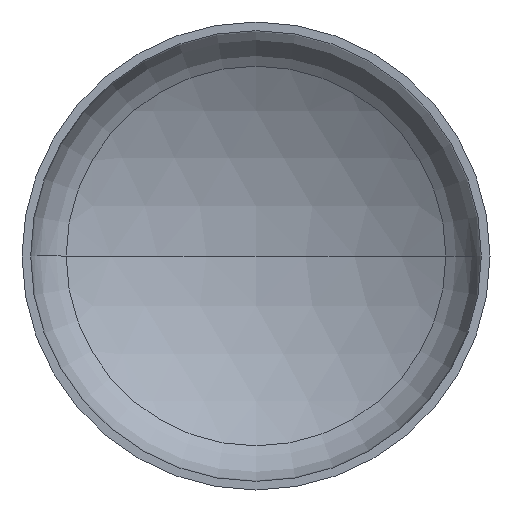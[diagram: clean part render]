
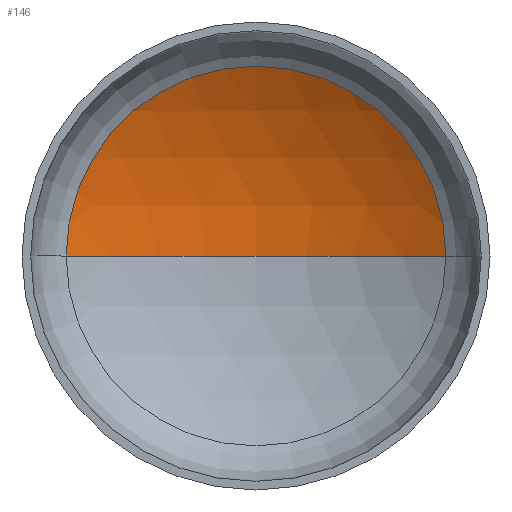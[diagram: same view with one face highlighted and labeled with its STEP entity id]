
A CAD part, front view. The second image highlights one B-rep face of the part: STEP entity #146.
In plain terms, the highlighted spherical face has radius 3200 mm.
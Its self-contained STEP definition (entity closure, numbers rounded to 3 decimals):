
#1 = AXIS2_PLACEMENT_3D ( 'NONE', #404, #102, #309 ) ;
#4 = AXIS2_PLACEMENT_3D ( 'NONE', #362, #218, #221 ) ;
#5 = CARTESIAN_POINT ( 'NONE',  ( 1622.901, 650.04, 0. ) ) ;
#12 = AXIS2_PLACEMENT_3D ( 'NONE', #109, #116, #131 ) ;
#30 = EDGE_LOOP ( 'NONE', ( #163, #170, #112 ) ) ;
#35 = AXIS2_PLACEMENT_3D ( 'NONE', #288, #211, #204 ) ;
#70 = FACE_OUTER_BOUND ( 'NONE', #30, .T. ) ;
#79 = VERTEX_POINT ( 'NONE', #294 ) ;
#102 = DIRECTION ( 'NONE',  ( 0., 0., -1. ) ) ;
#109 = CARTESIAN_POINT ( 'NONE',  ( 0., 650.04, 0. ) ) ;
#112 = ORIENTED_EDGE ( 'NONE', *, *, #322, .T. ) ;
#116 = DIRECTION ( 'NONE',  ( 0., -1., 0. ) ) ;
#131 = DIRECTION ( 'NONE',  ( 1., 0., 0. ) ) ;
#146 = ADVANCED_FACE ( 'NONE', ( #70 ), #252, .F. ) ;
#149 = VERTEX_POINT ( 'NONE', #197 ) ;
#163 = ORIENTED_EDGE ( 'NONE', *, *, #366, .F. ) ;
#170 = ORIENTED_EDGE ( 'NONE', *, *, #367, .T. ) ;
#197 = CARTESIAN_POINT ( 'NONE',  ( 0., 1092.108, 0. ) ) ;
#204 = DIRECTION ( 'NONE',  ( -1., 0., 0. ) ) ;
#211 = DIRECTION ( 'NONE',  ( 0., 0., -1. ) ) ;
#218 = DIRECTION ( 'NONE',  ( 0., 0., 1. ) ) ;
#221 = DIRECTION ( 'NONE',  ( 1., 0., 0. ) ) ;
#225 = VERTEX_POINT ( 'NONE', #5 ) ;
#252 = SPHERICAL_SURFACE ( 'NONE', #35, 3200. ) ;
#288 = CARTESIAN_POINT ( 'NONE',  ( 0., -2107.892, 0. ) ) ;
#294 = CARTESIAN_POINT ( 'NONE',  ( -1622.901, 650.04, 0. ) ) ;
#309 = DIRECTION ( 'NONE',  ( -1., 0., 0. ) ) ;
#322 = EDGE_CURVE ( 'NONE', #225, #79, #355, .T. ) ;
#332 = CIRCLE ( 'NONE', #4, 3200. ) ;
#355 = CIRCLE ( 'NONE', #12, 1622.901 ) ;
#362 = CARTESIAN_POINT ( 'NONE',  ( 0., -2107.892, 0. ) ) ;
#366 = EDGE_CURVE ( 'NONE', #149, #79, #332, .T. ) ;
#367 = EDGE_CURVE ( 'NONE', #149, #225, #390, .T. ) ;
#390 = CIRCLE ( 'NONE', #1, 3200. ) ;
#404 = CARTESIAN_POINT ( 'NONE',  ( 0., -2107.892, 0. ) ) ;
